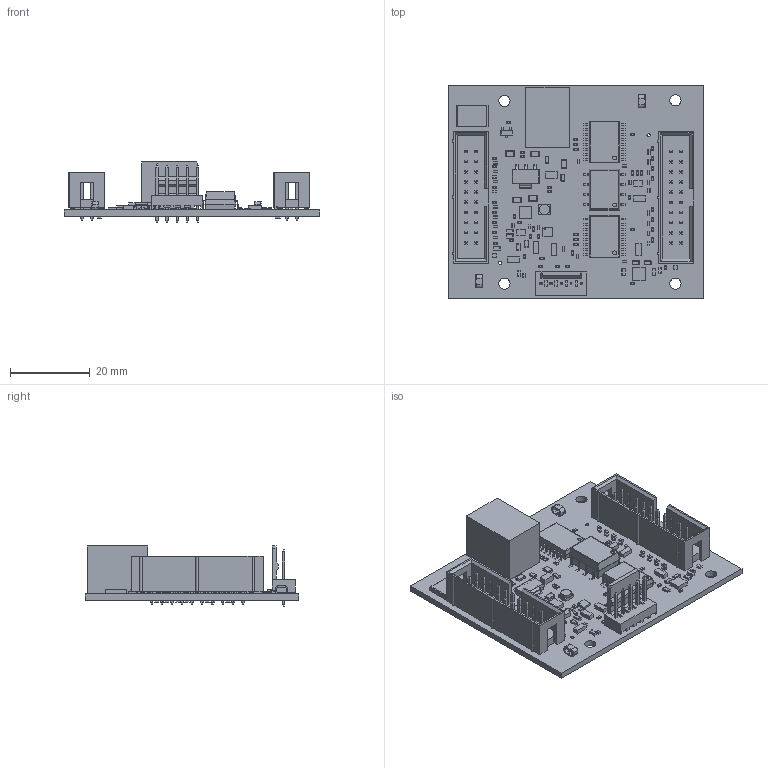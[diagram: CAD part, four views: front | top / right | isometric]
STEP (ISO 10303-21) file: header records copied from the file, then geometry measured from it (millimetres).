
FILE_DESCRIPTION(('Open CASCADE Model'),'2;1');
FILE_NAME('Open CASCADE Shape Model','2021-06-21T16:28:55',('Author'),( 'Open CASCADE'),'Open CASCADE STEP processor 6.8','Open CASCADE 6.8' ,'Unknown');
FILE_SCHEMA(('AUTOMOTIVE_DESIGN { 1 0 10303 214 1 1 1 1 }'));
Length unit declared in the file: millimetre
Products named in the file (304): PCB; Board; Open CASCADE STEP translator 6.8 5.1.1; R43; 5813699104; Mid_Body; Terminal; Open_CASCADE_STEP_translator_6.8_7.2.1; Mark; R42; R41; R40; R39; R38; R37; R36; L1; 6962686256; body; cylinder; pin; Open_CASCADE_STEP_translator_6.8_11.3.1; U9; 7958779264; Extruded; U7; 7960075040; U6; U5; 7958781344; U4; 7958776464; U2; 6962689376; Open_CASCADE_STEP_translator_6.8_2.1; Body; Open_CASCADE_STEP_translator_6.8_2.2.1; Leader; U1; TP9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
Assembly tree (452 placements, depth 5):
  PCB
    Board
      Open CASCADE STEP translator 6.8 5.1.1
    R43
      5813699104
        Mid_Body
        Terminal  x2
          Open_CASCADE_STEP_translator_6.8_7.2.1
        Mark
    R42
      5813699104
        Mid_Body
        Terminal  x2
          Open_CASCADE_STEP_translator_6.8_7.2.1
        Mark
    R41
      5813699104
        Mid_Body
        Terminal  x2
          Open_CASCADE_STEP_translator_6.8_7.2.1
        Mark
    R40
      5813699104
        Mid_Body
        Terminal  x2
          Open_CASCADE_STEP_translator_6.8_7.2.1
        Mark
    R39
      5813699104
        Mid_Body
        Terminal  x2
          Open_CASCADE_STEP_translator_6.8_7.2.1
        Mark
    R38
      5813699104
        Mid_Body
        Terminal  x2
          Open_CASCADE_STEP_translator_6.8_7.2.1
        Mark
    R37
      5813699104
        Mid_Body
        Terminal  x2
          Open_CASCADE_STEP_translator_6.8_7.2.1
        Mark
    R36
      5813699104
        Mid_Body
        Terminal  x2
          Open_CASCADE_STEP_translator_6.8_7.2.1
        Mark
    L1
      6962686256
        body
        cylinder
        pin  x2
          Open_CASCADE_STEP_translator_6.8_11.3.1
    U9
      7958779264
        Extruded
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Bounding box: 64.01 x 53.47 x 15.26 mm (x, y, z)
Volume: 10732.3 mm3; surface area: 16027.1 mm2
Topology: 470 solids, 474 shells, 6505 faces, 14427 edges, 8536 vertices
Faces by surface type: plane 4847, cylinder 1260, sphere 358, bspline 40
Full cylindrical faces by diameter (mm): 0.287 x1, 0.8 x2, 0.85 x12, 0.9 x50, 0.95 x3, 1 x5, 2.6 x1, 2.8 x4
Entity records: 59261 total; most frequent: CARTESIAN_POINT 11479, DIRECTION 9015, ORIENTED_EDGE 7777, EDGE_CURVE 3890, AXIS2_PLACEMENT_3D 3075, LINE 2865, VECTOR 2865, VERTEX_POINT 2339
